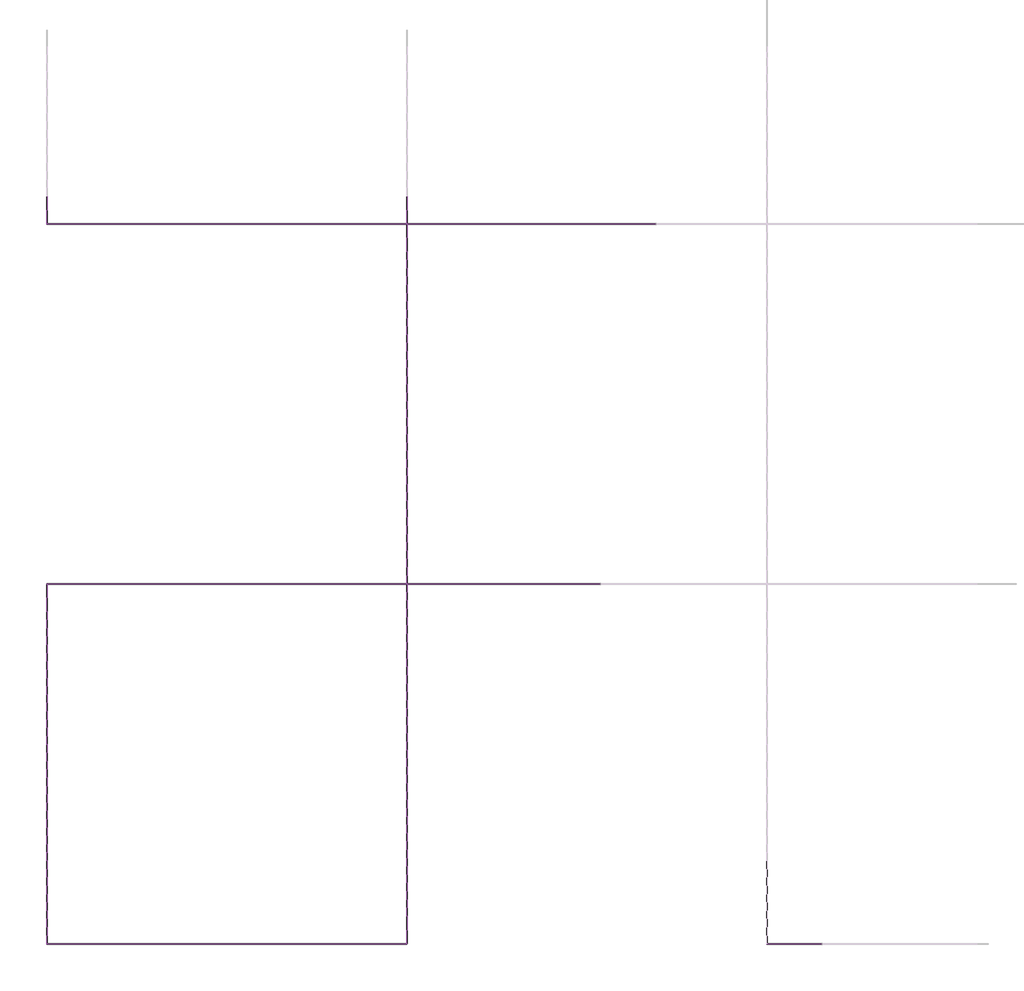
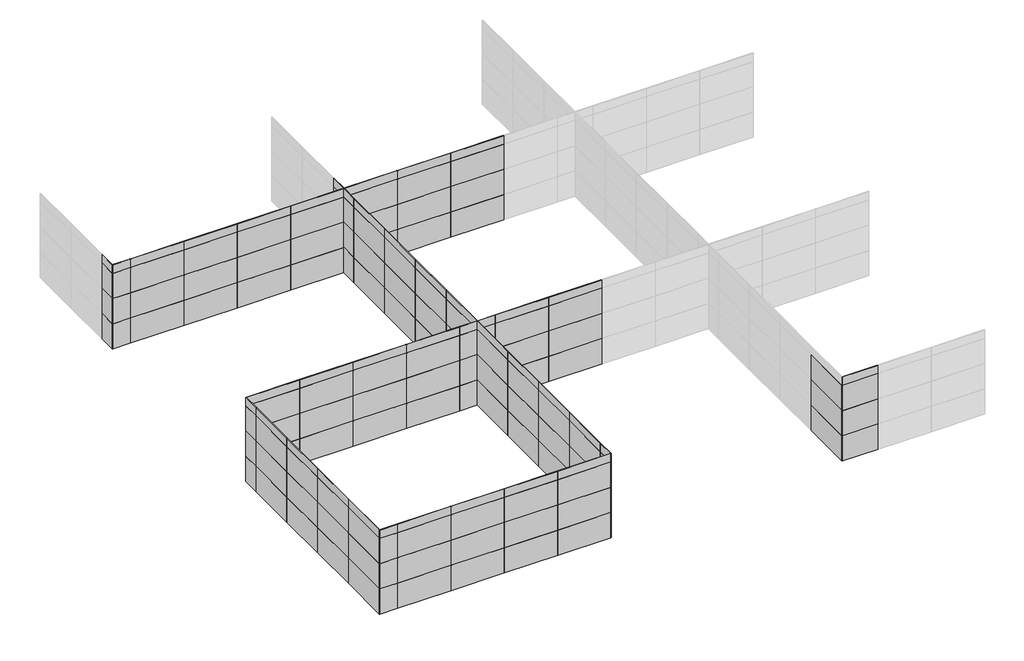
# One storey, part 1 of 4: 159 plates.
"""IFC4 building model written with IfcOpenShell, lengths in millimetres."""

from ifc_helpers import new_model, si_unit, origin, place, context, project, spatial, transform, mapped, element, save
from components import plate_b491c4e8, plate_da1865bf, plate_ce02e459, plate_7b5d22a9, plate_a38b8537, plate_752961ee

model = new_model("IFC4")

# Units and contexts
model_context = context("Model", 3, world=origin())
ifc_project = project(units=[si_unit("LENGTHUNIT", "METRE", prefix="MILLI")], contexts=[model_context])

# Site, building, storey
site = spatial("IfcSite", under=ifc_project)
building = spatial("IfcBuilding", under=site)
storey = spatial("IfcBuildingStorey", under=building, Name="标高 4", Elevation=15000.0)

# Plates
placement = place(None, origin())
plate_shape = plate_b491c4e8(model_context)
element("IfcPlate", 1, ObjectType="系统嵌板 : 玻璃", at=placement, inside=storey, context=model_context, shape_type="MappedRepresentation", body=[
    mapped(plate_shape, transform((-21305.2052414, -25748.6313563, 15000.0), x_axis=(0.0, 1.0, 0.0), y_axis=(-1.0, 0.0, 0.0), z_axis=(0.0, 0.0, 1.0))),
])
element("IfcPlate", 2, ObjectType="系统嵌板 : 玻璃", at=placement, inside=storey, context=model_context, shape_type="MappedRepresentation", body=[
    mapped(plate_shape, transform((-21305.2052414, -22748.6313563, 15000.0), x_axis=(0.0, 1.0, 0.0), y_axis=(-1.0, 0.0, 0.0), z_axis=(0.0, 0.0, 1.0))),
])
element("IfcPlate", 3, ObjectType="系统嵌板 : 玻璃", at=placement, inside=storey, context=model_context, shape_type="MappedRepresentation", body=[
    mapped(plate_shape, transform((-21305.2052414, -19748.6313563, 15000.0), x_axis=(0.0, 1.0, 0.0), y_axis=(-1.0, 0.0, 0.0), z_axis=(0.0, 0.0, 1.0))),
])
element("IfcPlate", 4, ObjectType="系统嵌板 : 玻璃", at=placement, inside=storey, context=model_context, shape_type="MappedRepresentation", body=[
    mapped(plate_shape, transform((-21305.2052414, -16748.6313563, 15000.0), x_axis=(0.0, 1.0, 0.0), y_axis=(-1.0, 0.0, 0.0), z_axis=(0.0, 0.0, 1.0))),
])
element("IfcPlate", 5, ObjectType="系统嵌板 : 玻璃", at=placement, inside=storey, context=model_context, shape_type="MappedRepresentation", body=[
    mapped(plate_shape, transform((-21305.2052414, -25748.6313563, 16500.0), x_axis=(0.0, 1.0, 0.0), y_axis=(-1.0, 0.0, 0.0), z_axis=(0.0, 0.0, 1.0))),
])
element("IfcPlate", 6, ObjectType="系统嵌板 : 玻璃", at=placement, inside=storey, context=model_context, shape_type="MappedRepresentation", body=[
    mapped(plate_shape, transform((-21305.2052414, -22748.6313563, 16500.0), x_axis=(0.0, 1.0, 0.0), y_axis=(-1.0, 0.0, 0.0), z_axis=(0.0, 0.0, 1.0))),
])
element("IfcPlate", 7, ObjectType="系统嵌板 : 玻璃", at=placement, inside=storey, context=model_context, shape_type="MappedRepresentation", body=[
    mapped(plate_shape, transform((-21305.2052414, -19748.6313563, 16500.0), x_axis=(0.0, 1.0, 0.0), y_axis=(-1.0, 0.0, 0.0), z_axis=(0.0, 0.0, 1.0))),
])
element("IfcPlate", 8, ObjectType="系统嵌板 : 玻璃", at=placement, inside=storey, context=model_context, shape_type="MappedRepresentation", body=[
    mapped(plate_shape, transform((-21305.2052414, -16748.6313563, 16500.0), x_axis=(0.0, 1.0, 0.0), y_axis=(-1.0, 0.0, 0.0), z_axis=(0.0, 0.0, 1.0))),
])
element("IfcPlate", 9, ObjectType="系统嵌板 : 玻璃", at=placement, inside=storey, context=model_context, shape_type="MappedRepresentation", body=[
    mapped(plate_shape, transform((-21305.2052414, -25748.6313563, 18000.0), x_axis=(0.0, 1.0, 0.0), y_axis=(-1.0, 0.0, 0.0), z_axis=(0.0, 0.0, 1.0))),
])
element("IfcPlate", 10, ObjectType="系统嵌板 : 玻璃", at=placement, inside=storey, context=model_context, shape_type="MappedRepresentation", body=[
    mapped(plate_shape, transform((-21305.2052414, -22748.6313563, 18000.0), x_axis=(0.0, 1.0, 0.0), y_axis=(-1.0, 0.0, 0.0), z_axis=(0.0, 0.0, 1.0))),
])
element("IfcPlate", 11, ObjectType="系统嵌板 : 玻璃", at=placement, inside=storey, context=model_context, shape_type="MappedRepresentation", body=[
    mapped(plate_shape, transform((-21305.2052414, -19748.6313563, 18000.0), x_axis=(0.0, 1.0, 0.0), y_axis=(-1.0, 0.0, 0.0), z_axis=(0.0, 0.0, 1.0))),
])
element("IfcPlate", 12, ObjectType="系统嵌板 : 玻璃", at=placement, inside=storey, context=model_context, shape_type="MappedRepresentation", body=[
    mapped(plate_shape, transform((-21305.2052414, -16748.6313563, 18000.0), x_axis=(0.0, 1.0, 0.0), y_axis=(-1.0, 0.0, 0.0), z_axis=(0.0, 0.0, 1.0))),
])
element("IfcPlate", 13, ObjectType="系统嵌板 : 玻璃", at=placement, inside=storey, context=model_context, shape_type="MappedRepresentation", body=[
    mapped(plate_shape, transform((-9805.2052414, -27248.6313563, 15000.0), x_axis=(-1.0, 0.0, 0.0), y_axis=(0.0, -1.0, 0.0), z_axis=(0.0, 0.0, 1.0))),
])
element("IfcPlate", 14, ObjectType="系统嵌板 : 玻璃", at=placement, inside=storey, context=model_context, shape_type="MappedRepresentation", body=[
    mapped(plate_shape, transform((-12805.2052414, -27248.6313563, 15000.0), x_axis=(-1.0, 0.0, 0.0), y_axis=(0.0, -1.0, 0.0), z_axis=(0.0, 0.0, 1.0))),
])
element("IfcPlate", 15, ObjectType="系统嵌板 : 玻璃", at=placement, inside=storey, context=model_context, shape_type="MappedRepresentation", body=[
    mapped(plate_shape, transform((-15805.2052414, -27248.6313563, 15000.0), x_axis=(-1.0, 0.0, 0.0), y_axis=(0.0, -1.0, 0.0), z_axis=(0.0, 0.0, 1.0))),
])
element("IfcPlate", 16, ObjectType="系统嵌板 : 玻璃", at=placement, inside=storey, context=model_context, shape_type="MappedRepresentation", body=[
    mapped(plate_shape, transform((-18805.2052414, -27248.6313563, 15000.0), x_axis=(-1.0, 0.0, 0.0), y_axis=(0.0, -1.0, 0.0), z_axis=(0.0, 0.0, 1.0))),
])
element("IfcPlate", 17, ObjectType="系统嵌板 : 玻璃", at=placement, inside=storey, context=model_context, shape_type="MappedRepresentation", body=[
    mapped(plate_shape, transform((-9805.2052414, -27248.6313563, 16500.0), x_axis=(-1.0, 0.0, 0.0), y_axis=(0.0, -1.0, 0.0), z_axis=(0.0, 0.0, 1.0))),
])
element("IfcPlate", 18, ObjectType="系统嵌板 : 玻璃", at=placement, inside=storey, context=model_context, shape_type="MappedRepresentation", body=[
    mapped(plate_shape, transform((-12805.2052414, -27248.6313563, 16500.0), x_axis=(-1.0, 0.0, 0.0), y_axis=(0.0, -1.0, 0.0), z_axis=(0.0, 0.0, 1.0))),
])
element("IfcPlate", 19, ObjectType="系统嵌板 : 玻璃", at=placement, inside=storey, context=model_context, shape_type="MappedRepresentation", body=[
    mapped(plate_shape, transform((-15805.2052414, -27248.6313563, 16500.0), x_axis=(-1.0, 0.0, 0.0), y_axis=(0.0, -1.0, 0.0), z_axis=(0.0, 0.0, 1.0))),
])
element("IfcPlate", 20, ObjectType="系统嵌板 : 玻璃", at=placement, inside=storey, context=model_context, shape_type="MappedRepresentation", body=[
    mapped(plate_shape, transform((-18805.2052414, -27248.6313563, 16500.0), x_axis=(-1.0, 0.0, 0.0), y_axis=(0.0, -1.0, 0.0), z_axis=(0.0, 0.0, 1.0))),
])
element("IfcPlate", 21, ObjectType="系统嵌板 : 玻璃", at=placement, inside=storey, context=model_context, shape_type="MappedRepresentation", body=[
    mapped(plate_shape, transform((-9805.2052414, -27248.6313563, 18000.0), x_axis=(-1.0, 0.0, 0.0), y_axis=(0.0, -1.0, 0.0), z_axis=(0.0, 0.0, 1.0))),
])
element("IfcPlate", 22, ObjectType="系统嵌板 : 玻璃", at=placement, inside=storey, context=model_context, shape_type="MappedRepresentation", body=[
    mapped(plate_shape, transform((-12805.2052414, -27248.6313563, 18000.0), x_axis=(-1.0, 0.0, 0.0), y_axis=(0.0, -1.0, 0.0), z_axis=(0.0, 0.0, 1.0))),
])
element("IfcPlate", 23, ObjectType="系统嵌板 : 玻璃", at=placement, inside=storey, context=model_context, shape_type="MappedRepresentation", body=[
    mapped(plate_shape, transform((-15805.2052414, -27248.6313563, 18000.0), x_axis=(-1.0, 0.0, 0.0), y_axis=(0.0, -1.0, 0.0), z_axis=(0.0, 0.0, 1.0))),
])
element("IfcPlate", 24, ObjectType="系统嵌板 : 玻璃", at=placement, inside=storey, context=model_context, shape_type="MappedRepresentation", body=[
    mapped(plate_shape, transform((-18805.2052414, -27248.6313563, 18000.0), x_axis=(-1.0, 0.0, 0.0), y_axis=(0.0, -1.0, 0.0), z_axis=(0.0, 0.0, 1.0))),
])
element("IfcPlate", 25, ObjectType="系统嵌板 : 玻璃", at=placement, inside=storey, context=model_context, shape_type="MappedRepresentation", body=[
    mapped(plate_shape, transform((-9805.2052414, -1248.6313563, 15000.0), x_axis=(-1.0, 0.0, 0.0), y_axis=(0.0, -1.0, 0.0), z_axis=(0.0, 0.0, 1.0))),
])
element("IfcPlate", 26, ObjectType="系统嵌板 : 玻璃", at=placement, inside=storey, context=model_context, shape_type="MappedRepresentation", body=[
    mapped(plate_shape, transform((-12805.2052414, -1248.6313563, 15000.0), x_axis=(-1.0, 0.0, 0.0), y_axis=(0.0, -1.0, 0.0), z_axis=(0.0, 0.0, 1.0))),
])
element("IfcPlate", 27, ObjectType="系统嵌板 : 玻璃", at=placement, inside=storey, context=model_context, shape_type="MappedRepresentation", body=[
    mapped(plate_shape, transform((-15805.2052414, -1248.6313563, 15000.0), x_axis=(-1.0, 0.0, 0.0), y_axis=(0.0, -1.0, 0.0), z_axis=(0.0, 0.0, 1.0))),
])
element("IfcPlate", 28, ObjectType="系统嵌板 : 玻璃", at=placement, inside=storey, context=model_context, shape_type="MappedRepresentation", body=[
    mapped(plate_shape, transform((-18805.2052414, -1248.6313563, 15000.0), x_axis=(-1.0, 0.0, 0.0), y_axis=(0.0, -1.0, 0.0), z_axis=(0.0, 0.0, 1.0))),
])
element("IfcPlate", 29, ObjectType="系统嵌板 : 玻璃", at=placement, inside=storey, context=model_context, shape_type="MappedRepresentation", body=[
    mapped(plate_shape, transform((-9805.2052414, -1248.6313563, 16500.0), x_axis=(-1.0, 0.0, 0.0), y_axis=(0.0, -1.0, 0.0), z_axis=(0.0, 0.0, 1.0))),
])
element("IfcPlate", 30, ObjectType="系统嵌板 : 玻璃", at=placement, inside=storey, context=model_context, shape_type="MappedRepresentation", body=[
    mapped(plate_shape, transform((-12805.2052414, -1248.6313563, 16500.0), x_axis=(-1.0, 0.0, 0.0), y_axis=(0.0, -1.0, 0.0), z_axis=(0.0, 0.0, 1.0))),
])
element("IfcPlate", 31, ObjectType="系统嵌板 : 玻璃", at=placement, inside=storey, context=model_context, shape_type="MappedRepresentation", body=[
    mapped(plate_shape, transform((-15805.2052414, -1248.6313563, 16500.0), x_axis=(-1.0, 0.0, 0.0), y_axis=(0.0, -1.0, 0.0), z_axis=(0.0, 0.0, 1.0))),
])
element("IfcPlate", 32, ObjectType="系统嵌板 : 玻璃", at=placement, inside=storey, context=model_context, shape_type="MappedRepresentation", body=[
    mapped(plate_shape, transform((-18805.2052414, -1248.6313563, 16500.0), x_axis=(-1.0, 0.0, 0.0), y_axis=(0.0, -1.0, 0.0), z_axis=(0.0, 0.0, 1.0))),
])
element("IfcPlate", 33, ObjectType="系统嵌板 : 玻璃", at=placement, inside=storey, context=model_context, shape_type="MappedRepresentation", body=[
    mapped(plate_shape, transform((-9805.2052414, -1248.6313563, 18000.0), x_axis=(-1.0, 0.0, 0.0), y_axis=(0.0, -1.0, 0.0), z_axis=(0.0, 0.0, 1.0))),
])
element("IfcPlate", 34, ObjectType="系统嵌板 : 玻璃", at=placement, inside=storey, context=model_context, shape_type="MappedRepresentation", body=[
    mapped(plate_shape, transform((-12805.2052414, -1248.6313563, 18000.0), x_axis=(-1.0, 0.0, 0.0), y_axis=(0.0, -1.0, 0.0), z_axis=(0.0, 0.0, 1.0))),
])
element("IfcPlate", 35, ObjectType="系统嵌板 : 玻璃", at=placement, inside=storey, context=model_context, shape_type="MappedRepresentation", body=[
    mapped(plate_shape, transform((-15805.2052414, -1248.6313563, 18000.0), x_axis=(-1.0, 0.0, 0.0), y_axis=(0.0, -1.0, 0.0), z_axis=(0.0, 0.0, 1.0))),
])
element("IfcPlate", 36, ObjectType="系统嵌板 : 玻璃", at=placement, inside=storey, context=model_context, shape_type="MappedRepresentation", body=[
    mapped(plate_shape, transform((-18805.2052414, -1248.6313563, 18000.0), x_axis=(-1.0, 0.0, 0.0), y_axis=(0.0, -1.0, 0.0), z_axis=(0.0, 0.0, 1.0))),
])
element("IfcPlate", 37, ObjectType="系统嵌板 : 玻璃", at=placement, inside=storey, context=model_context, shape_type="MappedRepresentation", body=[
    mapped(plate_shape, transform((-8305.2052414, -12748.6313563, 15000.0), x_axis=(0.0, 1.0, 0.0), y_axis=(-1.0, 0.0, 0.0), z_axis=(0.0, 0.0, 1.0))),
])
element("IfcPlate", 38, ObjectType="系统嵌板 : 玻璃", at=placement, inside=storey, context=model_context, shape_type="MappedRepresentation", body=[
    mapped(plate_shape, transform((-8305.2052414, -9748.6313563, 15000.0), x_axis=(0.0, 1.0, 0.0), y_axis=(-1.0, 0.0, 0.0), z_axis=(0.0, 0.0, 1.0))),
])
element("IfcPlate", 39, ObjectType="系统嵌板 : 玻璃", at=placement, inside=storey, context=model_context, shape_type="MappedRepresentation", body=[
    mapped(plate_shape, transform((-8305.2052414, -6748.6313563, 15000.0), x_axis=(0.0, 1.0, 0.0), y_axis=(-1.0, 0.0, 0.0), z_axis=(0.0, 0.0, 1.0))),
])
element("IfcPlate", 40, ObjectType="系统嵌板 : 玻璃", at=placement, inside=storey, context=model_context, shape_type="MappedRepresentation", body=[
    mapped(plate_shape, transform((-8305.2052414, -3748.6313563, 15000.0), x_axis=(0.0, 1.0, 0.0), y_axis=(-1.0, 0.0, 0.0), z_axis=(0.0, 0.0, 1.0))),
])
element("IfcPlate", 41, ObjectType="系统嵌板 : 玻璃", at=placement, inside=storey, context=model_context, shape_type="MappedRepresentation", body=[
    mapped(plate_shape, transform((-8305.2052414, -12748.6313563, 16500.0), x_axis=(0.0, 1.0, 0.0), y_axis=(-1.0, 0.0, 0.0), z_axis=(0.0, 0.0, 1.0))),
])
element("IfcPlate", 42, ObjectType="系统嵌板 : 玻璃", at=placement, inside=storey, context=model_context, shape_type="MappedRepresentation", body=[
    mapped(plate_shape, transform((-8305.2052414, -9748.6313563, 16500.0), x_axis=(0.0, 1.0, 0.0), y_axis=(-1.0, 0.0, 0.0), z_axis=(0.0, 0.0, 1.0))),
])
element("IfcPlate", 43, ObjectType="系统嵌板 : 玻璃", at=placement, inside=storey, context=model_context, shape_type="MappedRepresentation", body=[
    mapped(plate_shape, transform((-8305.2052414, -6748.6313563, 16500.0), x_axis=(0.0, 1.0, 0.0), y_axis=(-1.0, 0.0, 0.0), z_axis=(0.0, 0.0, 1.0))),
])
element("IfcPlate", 44, ObjectType="系统嵌板 : 玻璃", at=placement, inside=storey, context=model_context, shape_type="MappedRepresentation", body=[
    mapped(plate_shape, transform((-8305.2052414, -3748.6313563, 16500.0), x_axis=(0.0, 1.0, 0.0), y_axis=(-1.0, 0.0, 0.0), z_axis=(0.0, 0.0, 1.0))),
])
element("IfcPlate", 45, ObjectType="系统嵌板 : 玻璃", at=placement, inside=storey, context=model_context, shape_type="MappedRepresentation", body=[
    mapped(plate_shape, transform((-8305.2052414, -12748.6313563, 18000.0), x_axis=(0.0, 1.0, 0.0), y_axis=(-1.0, 0.0, 0.0), z_axis=(0.0, 0.0, 1.0))),
])
element("IfcPlate", 46, ObjectType="系统嵌板 : 玻璃", at=placement, inside=storey, context=model_context, shape_type="MappedRepresentation", body=[
    mapped(plate_shape, transform((-8305.2052414, -9748.6313563, 18000.0), x_axis=(0.0, 1.0, 0.0), y_axis=(-1.0, 0.0, 0.0), z_axis=(0.0, 0.0, 1.0))),
])
element("IfcPlate", 47, ObjectType="系统嵌板 : 玻璃", at=placement, inside=storey, context=model_context, shape_type="MappedRepresentation", body=[
    mapped(plate_shape, transform((-8305.2052414, -6748.6313563, 18000.0), x_axis=(0.0, 1.0, 0.0), y_axis=(-1.0, 0.0, 0.0), z_axis=(0.0, 0.0, 1.0))),
])
element("IfcPlate", 48, ObjectType="系统嵌板 : 玻璃", at=placement, inside=storey, context=model_context, shape_type="MappedRepresentation", body=[
    mapped(plate_shape, transform((-8305.2052414, -3748.6313563, 18000.0), x_axis=(0.0, 1.0, 0.0), y_axis=(-1.0, 0.0, 0.0), z_axis=(0.0, 0.0, 1.0))),
])
element("IfcPlate", 49, ObjectType="系统嵌板 : 玻璃", at=placement, inside=storey, context=model_context, shape_type="MappedRepresentation", body=[
    mapped(plate_shape, transform((-19805.2052414, -14248.6313563, 15000.0), x_axis=(1.0, 0.0, 0.0), y_axis=(0.0, 1.0, 0.0), z_axis=(0.0, 0.0, 1.0))),
])
element("IfcPlate", 50, ObjectType="系统嵌板 : 玻璃", at=placement, inside=storey, context=model_context, shape_type="MappedRepresentation", body=[
    mapped(plate_shape, transform((-16805.2052414, -14248.6313563, 15000.0), x_axis=(1.0, 0.0, 0.0), y_axis=(0.0, 1.0, 0.0), z_axis=(0.0, 0.0, 1.0))),
])
element("IfcPlate", 51, ObjectType="系统嵌板 : 玻璃", at=placement, inside=storey, context=model_context, shape_type="MappedRepresentation", body=[
    mapped(plate_shape, transform((-13805.2052414, -14248.6313563, 15000.0), x_axis=(1.0, 0.0, 0.0), y_axis=(0.0, 1.0, 0.0), z_axis=(0.0, 0.0, 1.0))),
])
element("IfcPlate", 52, ObjectType="系统嵌板 : 玻璃", at=placement, inside=storey, context=model_context, shape_type="MappedRepresentation", body=[
    mapped(plate_shape, transform((-10805.2052414, -14248.6313563, 15000.0), x_axis=(1.0, 0.0, 0.0), y_axis=(0.0, 1.0, 0.0), z_axis=(0.0, 0.0, 1.0))),
])
element("IfcPlate", 53, ObjectType="系统嵌板 : 玻璃", at=placement, inside=storey, context=model_context, shape_type="MappedRepresentation", body=[
    mapped(plate_shape, transform((-19805.2052414, -14248.6313563, 16500.0), x_axis=(1.0, 0.0, 0.0), y_axis=(0.0, 1.0, 0.0), z_axis=(0.0, 0.0, 1.0))),
])
element("IfcPlate", 54, ObjectType="系统嵌板 : 玻璃", at=placement, inside=storey, context=model_context, shape_type="MappedRepresentation", body=[
    mapped(plate_shape, transform((-16805.2052414, -14248.6313563, 16500.0), x_axis=(1.0, 0.0, 0.0), y_axis=(0.0, 1.0, 0.0), z_axis=(0.0, 0.0, 1.0))),
])
element("IfcPlate", 55, ObjectType="系统嵌板 : 玻璃", at=placement, inside=storey, context=model_context, shape_type="MappedRepresentation", body=[
    mapped(plate_shape, transform((-13805.2052414, -14248.6313563, 16500.0), x_axis=(1.0, 0.0, 0.0), y_axis=(0.0, 1.0, 0.0), z_axis=(0.0, 0.0, 1.0))),
])
element("IfcPlate", 56, ObjectType="系统嵌板 : 玻璃", at=placement, inside=storey, context=model_context, shape_type="MappedRepresentation", body=[
    mapped(plate_shape, transform((-10805.2052414, -14248.6313563, 16500.0), x_axis=(1.0, 0.0, 0.0), y_axis=(0.0, 1.0, 0.0), z_axis=(0.0, 0.0, 1.0))),
])
element("IfcPlate", 57, ObjectType="系统嵌板 : 玻璃", at=placement, inside=storey, context=model_context, shape_type="MappedRepresentation", body=[
    mapped(plate_shape, transform((-19805.2052414, -14248.6313563, 18000.0), x_axis=(1.0, 0.0, 0.0), y_axis=(0.0, 1.0, 0.0), z_axis=(0.0, 0.0, 1.0))),
])
element("IfcPlate", 58, ObjectType="系统嵌板 : 玻璃", at=placement, inside=storey, context=model_context, shape_type="MappedRepresentation", body=[
    mapped(plate_shape, transform((-16805.2052414, -14248.6313563, 18000.0), x_axis=(1.0, 0.0, 0.0), y_axis=(0.0, 1.0, 0.0), z_axis=(0.0, 0.0, 1.0))),
])
element("IfcPlate", 59, ObjectType="系统嵌板 : 玻璃", at=placement, inside=storey, context=model_context, shape_type="MappedRepresentation", body=[
    mapped(plate_shape, transform((-13805.2052414, -14248.6313563, 18000.0), x_axis=(1.0, 0.0, 0.0), y_axis=(0.0, 1.0, 0.0), z_axis=(0.0, 0.0, 1.0))),
])
element("IfcPlate", 60, ObjectType="系统嵌板 : 玻璃", at=placement, inside=storey, context=model_context, shape_type="MappedRepresentation", body=[
    mapped(plate_shape, transform((-10805.2052414, -14248.6313563, 18000.0), x_axis=(1.0, 0.0, 0.0), y_axis=(0.0, 1.0, 0.0), z_axis=(0.0, 0.0, 1.0))),
])
element("IfcPlate", 61, ObjectType="系统嵌板 : 玻璃", at=placement, inside=storey, context=model_context, shape_type="MappedRepresentation", body=[
    mapped(plate_shape, transform((4694.7947586, -25748.6313563, 15000.0), x_axis=(0.0, 1.0, 0.0), y_axis=(-1.0, 0.0, 0.0), z_axis=(0.0, 0.0, 1.0))),
])
element("IfcPlate", 62, ObjectType="系统嵌板 : 玻璃", at=placement, inside=storey, context=model_context, shape_type="MappedRepresentation", body=[
    mapped(plate_shape, transform((4694.7947586, -25748.6313563, 16500.0), x_axis=(0.0, 1.0, 0.0), y_axis=(-1.0, 0.0, 0.0), z_axis=(0.0, 0.0, 1.0))),
])
element("IfcPlate", 63, ObjectType="系统嵌板 : 玻璃", at=placement, inside=storey, context=model_context, shape_type="MappedRepresentation", body=[
    mapped(plate_shape, transform((4694.7947586, -25748.6313563, 18000.0), x_axis=(0.0, 1.0, 0.0), y_axis=(-1.0, 0.0, 0.0), z_axis=(0.0, 0.0, 1.0))),
])
element("IfcPlate", 64, ObjectType="系统嵌板 : 玻璃", at=placement, inside=storey, context=model_context, shape_type="MappedRepresentation", body=[
    mapped(plate_shape, transform((-2805.2052414, -14248.6313563, 15000.0), x_axis=(-1.0, 0.0, 0.0), y_axis=(0.0, -1.0, 0.0), z_axis=(0.0, 0.0, 1.0))),
])
element("IfcPlate", 65, ObjectType="系统嵌板 : 玻璃", at=placement, inside=storey, context=model_context, shape_type="MappedRepresentation", body=[
    mapped(plate_shape, transform((-5805.2052414, -14248.6313563, 15000.0), x_axis=(-1.0, 0.0, 0.0), y_axis=(0.0, -1.0, 0.0), z_axis=(0.0, 0.0, 1.0))),
])
element("IfcPlate", 66, ObjectType="系统嵌板 : 玻璃", at=placement, inside=storey, context=model_context, shape_type="MappedRepresentation", body=[
    mapped(plate_shape, transform((-2805.2052414, -14248.6313563, 16500.0), x_axis=(-1.0, 0.0, 0.0), y_axis=(0.0, -1.0, 0.0), z_axis=(0.0, 0.0, 1.0))),
])
element("IfcPlate", 67, ObjectType="系统嵌板 : 玻璃", at=placement, inside=storey, context=model_context, shape_type="MappedRepresentation", body=[
    mapped(plate_shape, transform((-5805.2052414, -14248.6313563, 16500.0), x_axis=(-1.0, 0.0, 0.0), y_axis=(0.0, -1.0, 0.0), z_axis=(0.0, 0.0, 1.0))),
])
element("IfcPlate", 68, ObjectType="系统嵌板 : 玻璃", at=placement, inside=storey, context=model_context, shape_type="MappedRepresentation", body=[
    mapped(plate_shape, transform((-2805.2052414, -14248.6313563, 18000.0), x_axis=(-1.0, 0.0, 0.0), y_axis=(0.0, -1.0, 0.0), z_axis=(0.0, 0.0, 1.0))),
])
element("IfcPlate", 69, ObjectType="系统嵌板 : 玻璃", at=placement, inside=storey, context=model_context, shape_type="MappedRepresentation", body=[
    mapped(plate_shape, transform((-5805.2052414, -14248.6313563, 18000.0), x_axis=(-1.0, 0.0, 0.0), y_axis=(0.0, -1.0, 0.0), z_axis=(0.0, 0.0, 1.0))),
])
element("IfcPlate", 70, ObjectType="系统嵌板 : 玻璃", at=placement, inside=storey, context=model_context, shape_type="MappedRepresentation", body=[
    mapped(plate_shape, transform((-8305.2052414, -15748.6313563, 15000.0), x_axis=(0.0, -1.0, 0.0), y_axis=(1.0, 0.0, 0.0), z_axis=(0.0, 0.0, 1.0))),
])
element("IfcPlate", 71, ObjectType="系统嵌板 : 玻璃", at=placement, inside=storey, context=model_context, shape_type="MappedRepresentation", body=[
    mapped(plate_shape, transform((-8305.2052414, -18748.6313563, 15000.0), x_axis=(0.0, -1.0, 0.0), y_axis=(1.0, 0.0, 0.0), z_axis=(0.0, 0.0, 1.0))),
])
element("IfcPlate", 72, ObjectType="系统嵌板 : 玻璃", at=placement, inside=storey, context=model_context, shape_type="MappedRepresentation", body=[
    mapped(plate_shape, transform((-8305.2052414, -21748.6313563, 15000.0), x_axis=(0.0, -1.0, 0.0), y_axis=(1.0, 0.0, 0.0), z_axis=(0.0, 0.0, 1.0))),
])
element("IfcPlate", 73, ObjectType="系统嵌板 : 玻璃", at=placement, inside=storey, context=model_context, shape_type="MappedRepresentation", body=[
    mapped(plate_shape, transform((-8305.2052414, -24748.6313563, 15000.0), x_axis=(0.0, -1.0, 0.0), y_axis=(1.0, 0.0, 0.0), z_axis=(0.0, 0.0, 1.0))),
])
element("IfcPlate", 74, ObjectType="系统嵌板 : 玻璃", at=placement, inside=storey, context=model_context, shape_type="MappedRepresentation", body=[
    mapped(plate_shape, transform((-8305.2052414, -15748.6313563, 16500.0), x_axis=(0.0, -1.0, 0.0), y_axis=(1.0, 0.0, 0.0), z_axis=(0.0, 0.0, 1.0))),
])
element("IfcPlate", 75, ObjectType="系统嵌板 : 玻璃", at=placement, inside=storey, context=model_context, shape_type="MappedRepresentation", body=[
    mapped(plate_shape, transform((-8305.2052414, -18748.6313563, 16500.0), x_axis=(0.0, -1.0, 0.0), y_axis=(1.0, 0.0, 0.0), z_axis=(0.0, 0.0, 1.0))),
])
element("IfcPlate", 76, ObjectType="系统嵌板 : 玻璃", at=placement, inside=storey, context=model_context, shape_type="MappedRepresentation", body=[
    mapped(plate_shape, transform((-8305.2052414, -21748.6313563, 16500.0), x_axis=(0.0, -1.0, 0.0), y_axis=(1.0, 0.0, 0.0), z_axis=(0.0, 0.0, 1.0))),
])
element("IfcPlate", 77, ObjectType="系统嵌板 : 玻璃", at=placement, inside=storey, context=model_context, shape_type="MappedRepresentation", body=[
    mapped(plate_shape, transform((-8305.2052414, -24748.6313563, 16500.0), x_axis=(0.0, -1.0, 0.0), y_axis=(1.0, 0.0, 0.0), z_axis=(0.0, 0.0, 1.0))),
])
element("IfcPlate", 78, ObjectType="系统嵌板 : 玻璃", at=placement, inside=storey, context=model_context, shape_type="MappedRepresentation", body=[
    mapped(plate_shape, transform((-8305.2052414, -15748.6313563, 18000.0), x_axis=(0.0, -1.0, 0.0), y_axis=(1.0, 0.0, 0.0), z_axis=(0.0, 0.0, 1.0))),
])
element("IfcPlate", 79, ObjectType="系统嵌板 : 玻璃", at=placement, inside=storey, context=model_context, shape_type="MappedRepresentation", body=[
    mapped(plate_shape, transform((-8305.2052414, -18748.6313563, 18000.0), x_axis=(0.0, -1.0, 0.0), y_axis=(1.0, 0.0, 0.0), z_axis=(0.0, 0.0, 1.0))),
])
element("IfcPlate", 80, ObjectType="系统嵌板 : 玻璃", at=placement, inside=storey, context=model_context, shape_type="MappedRepresentation", body=[
    mapped(plate_shape, transform((-8305.2052414, -21748.6313563, 18000.0), x_axis=(0.0, -1.0, 0.0), y_axis=(1.0, 0.0, 0.0), z_axis=(0.0, 0.0, 1.0))),
])
element("IfcPlate", 81, ObjectType="系统嵌板 : 玻璃", at=placement, inside=storey, context=model_context, shape_type="MappedRepresentation", body=[
    mapped(plate_shape, transform((-8305.2052414, -24748.6313563, 18000.0), x_axis=(0.0, -1.0, 0.0), y_axis=(1.0, 0.0, 0.0), z_axis=(0.0, 0.0, 1.0))),
])
element("IfcPlate", 82, ObjectType="系统嵌板 : 玻璃", at=placement, inside=storey, context=model_context, shape_type="MappedRepresentation", body=[
    mapped(plate_shape, transform((-6805.2052414, -1248.6313563, 15000.0), x_axis=(1.0, 0.0, 0.0), y_axis=(0.0, 1.0, 0.0), z_axis=(0.0, 0.0, 1.0))),
])
element("IfcPlate", 83, ObjectType="系统嵌板 : 玻璃", at=placement, inside=storey, context=model_context, shape_type="MappedRepresentation", body=[
    mapped(plate_shape, transform((-3805.2052414, -1248.6313563, 15000.0), x_axis=(1.0, 0.0, 0.0), y_axis=(0.0, 1.0, 0.0), z_axis=(0.0, 0.0, 1.0))),
])
element("IfcPlate", 84, ObjectType="系统嵌板 : 玻璃", at=placement, inside=storey, context=model_context, shape_type="MappedRepresentation", body=[
    mapped(plate_shape, transform((-805.2052414, -1248.6313563, 15000.0), x_axis=(1.0, 0.0, 0.0), y_axis=(0.0, 1.0, 0.0), z_axis=(0.0, 0.0, 1.0))),
])
element("IfcPlate", 85, ObjectType="系统嵌板 : 玻璃", at=placement, inside=storey, context=model_context, shape_type="MappedRepresentation", body=[
    mapped(plate_shape, transform((-6805.2052414, -1248.6313563, 16500.0), x_axis=(1.0, 0.0, 0.0), y_axis=(0.0, 1.0, 0.0), z_axis=(0.0, 0.0, 1.0))),
])
element("IfcPlate", 86, ObjectType="系统嵌板 : 玻璃", at=placement, inside=storey, context=model_context, shape_type="MappedRepresentation", body=[
    mapped(plate_shape, transform((-3805.2052414, -1248.6313563, 16500.0), x_axis=(1.0, 0.0, 0.0), y_axis=(0.0, 1.0, 0.0), z_axis=(0.0, 0.0, 1.0))),
])
element("IfcPlate", 87, ObjectType="系统嵌板 : 玻璃", at=placement, inside=storey, context=model_context, shape_type="MappedRepresentation", body=[
    mapped(plate_shape, transform((-805.2052414, -1248.6313563, 16500.0), x_axis=(1.0, 0.0, 0.0), y_axis=(0.0, 1.0, 0.0), z_axis=(0.0, 0.0, 1.0))),
])
element("IfcPlate", 88, ObjectType="系统嵌板 : 玻璃", at=placement, inside=storey, context=model_context, shape_type="MappedRepresentation", body=[
    mapped(plate_shape, transform((-6805.2052414, -1248.6313563, 18000.0), x_axis=(1.0, 0.0, 0.0), y_axis=(0.0, 1.0, 0.0), z_axis=(0.0, 0.0, 1.0))),
])
element("IfcPlate", 89, ObjectType="系统嵌板 : 玻璃", at=placement, inside=storey, context=model_context, shape_type="MappedRepresentation", body=[
    mapped(plate_shape, transform((-3805.2052414, -1248.6313563, 18000.0), x_axis=(1.0, 0.0, 0.0), y_axis=(0.0, 1.0, 0.0), z_axis=(0.0, 0.0, 1.0))),
])
element("IfcPlate", 90, ObjectType="系统嵌板 : 玻璃", at=placement, inside=storey, context=model_context, shape_type="MappedRepresentation", body=[
    mapped(plate_shape, transform((-805.2052414, -1248.6313563, 18000.0), x_axis=(1.0, 0.0, 0.0), y_axis=(0.0, 1.0, 0.0), z_axis=(0.0, 0.0, 1.0))),
])
plate_2_shape = plate_da1865bf(model_context)
element("IfcPlate", 91, ObjectType="系统嵌板 : 玻璃", at=placement, inside=storey, context=model_context, shape_type="MappedRepresentation", body=[
    mapped(plate_2_shape, transform((-21305.2052414, -14748.6313563, 15000.0), x_axis=(0.0, 1.0, 0.0), y_axis=(-1.0, 0.0, 0.0), z_axis=(0.0, 0.0, 1.0))),
])
element("IfcPlate", 92, ObjectType="系统嵌板 : 玻璃", at=placement, inside=storey, context=model_context, shape_type="MappedRepresentation", body=[
    mapped(plate_2_shape, transform((-21305.2052414, -748.6313563, 15000.0), x_axis=(0.0, 1.0, 0.0), y_axis=(-1.0, 0.0, 0.0), z_axis=(0.0, 0.0, 1.0))),
])
element("IfcPlate", 93, ObjectType="系统嵌板 : 玻璃", at=placement, inside=storey, context=model_context, shape_type="MappedRepresentation", body=[
    mapped(plate_2_shape, transform((-21305.2052414, -14748.6313563, 16500.0), x_axis=(0.0, 1.0, 0.0), y_axis=(-1.0, 0.0, 0.0), z_axis=(0.0, 0.0, 1.0))),
])
element("IfcPlate", 94, ObjectType="系统嵌板 : 玻璃", at=placement, inside=storey, context=model_context, shape_type="MappedRepresentation", body=[
    mapped(plate_2_shape, transform((-21305.2052414, -748.6313563, 16500.0), x_axis=(0.0, 1.0, 0.0), y_axis=(-1.0, 0.0, 0.0), z_axis=(0.0, 0.0, 1.0))),
])
element("IfcPlate", 95, ObjectType="系统嵌板 : 玻璃", at=placement, inside=storey, context=model_context, shape_type="MappedRepresentation", body=[
    mapped(plate_2_shape, transform((-21305.2052414, -14748.6313563, 18000.0), x_axis=(0.0, 1.0, 0.0), y_axis=(-1.0, 0.0, 0.0), z_axis=(0.0, 0.0, 1.0))),
])
element("IfcPlate", 96, ObjectType="系统嵌板 : 玻璃", at=placement, inside=storey, context=model_context, shape_type="MappedRepresentation", body=[
    mapped(plate_2_shape, transform((-21305.2052414, -748.6313563, 18000.0), x_axis=(0.0, 1.0, 0.0), y_axis=(-1.0, 0.0, 0.0), z_axis=(0.0, 0.0, 1.0))),
])
element("IfcPlate", 97, ObjectType="系统嵌板 : 玻璃", at=placement, inside=storey, context=model_context, shape_type="MappedRepresentation", body=[
    mapped(plate_2_shape, transform((-20805.2052414, -27248.6313563, 15000.0), x_axis=(-1.0, 0.0, 0.0), y_axis=(0.0, -1.0, 0.0), z_axis=(0.0, 0.0, 1.0))),
])
element("IfcPlate", 98, ObjectType="系统嵌板 : 玻璃", at=placement, inside=storey, context=model_context, shape_type="MappedRepresentation", body=[
    mapped(plate_2_shape, transform((-20805.2052414, -27248.6313563, 16500.0), x_axis=(-1.0, 0.0, 0.0), y_axis=(0.0, -1.0, 0.0), z_axis=(0.0, 0.0, 1.0))),
])
element("IfcPlate", 99, ObjectType="系统嵌板 : 玻璃", at=placement, inside=storey, context=model_context, shape_type="MappedRepresentation", body=[
    mapped(plate_2_shape, transform((-20805.2052414, -27248.6313563, 18000.0), x_axis=(-1.0, 0.0, 0.0), y_axis=(0.0, -1.0, 0.0), z_axis=(0.0, 0.0, 1.0))),
])
element("IfcPlate", 100, ObjectType="系统嵌板 : 玻璃", at=placement, inside=storey, context=model_context, shape_type="MappedRepresentation", body=[
    mapped(plate_2_shape, transform((-20805.2052414, -1248.6313563, 15000.0), x_axis=(-1.0, 0.0, 0.0), y_axis=(0.0, -1.0, 0.0), z_axis=(0.0, 0.0, 1.0))),
])
element("IfcPlate", 101, ObjectType="系统嵌板 : 玻璃", at=placement, inside=storey, context=model_context, shape_type="MappedRepresentation", body=[
    mapped(plate_2_shape, transform((-20805.2052414, -1248.6313563, 16500.0), x_axis=(-1.0, 0.0, 0.0), y_axis=(0.0, -1.0, 0.0), z_axis=(0.0, 0.0, 1.0))),
])
element("IfcPlate", 102, ObjectType="系统嵌板 : 玻璃", at=placement, inside=storey, context=model_context, shape_type="MappedRepresentation", body=[
    mapped(plate_2_shape, transform((-20805.2052414, -1248.6313563, 18000.0), x_axis=(-1.0, 0.0, 0.0), y_axis=(0.0, -1.0, 0.0), z_axis=(0.0, 0.0, 1.0))),
])
element("IfcPlate", 103, ObjectType="系统嵌板 : 玻璃", at=placement, inside=storey, context=model_context, shape_type="MappedRepresentation", body=[
    mapped(plate_2_shape, transform((-8305.2052414, -1748.6313563, 15000.0), x_axis=(0.0, 1.0, 0.0), y_axis=(-1.0, 0.0, 0.0), z_axis=(0.0, 0.0, 1.0))),
])
element("IfcPlate", 104, ObjectType="系统嵌板 : 玻璃", at=placement, inside=storey, context=model_context, shape_type="MappedRepresentation", body=[
    mapped(plate_2_shape, transform((-8305.2052414, -1748.6313563, 16500.0), x_axis=(0.0, 1.0, 0.0), y_axis=(-1.0, 0.0, 0.0), z_axis=(0.0, 0.0, 1.0))),
])
element("IfcPlate", 105, ObjectType="系统嵌板 : 玻璃", at=placement, inside=storey, context=model_context, shape_type="MappedRepresentation", body=[
    mapped(plate_2_shape, transform((-8305.2052414, -1748.6313563, 18000.0), x_axis=(0.0, 1.0, 0.0), y_axis=(-1.0, 0.0, 0.0), z_axis=(0.0, 0.0, 1.0))),
])
element("IfcPlate", 106, ObjectType="系统嵌板 : 玻璃", at=placement, inside=storey, context=model_context, shape_type="MappedRepresentation", body=[
    mapped(plate_2_shape, transform((-8805.2052414, -14248.6313563, 15000.0), x_axis=(1.0, 0.0, 0.0), y_axis=(0.0, 1.0, 0.0), z_axis=(0.0, 0.0, 1.0))),
])
element("IfcPlate", 107, ObjectType="系统嵌板 : 玻璃", at=placement, inside=storey, context=model_context, shape_type="MappedRepresentation", body=[
    mapped(plate_2_shape, transform((-8805.2052414, -14248.6313563, 16500.0), x_axis=(1.0, 0.0, 0.0), y_axis=(0.0, 1.0, 0.0), z_axis=(0.0, 0.0, 1.0))),
])
element("IfcPlate", 108, ObjectType="系统嵌板 : 玻璃", at=placement, inside=storey, context=model_context, shape_type="MappedRepresentation", body=[
    mapped(plate_2_shape, transform((-8805.2052414, -14248.6313563, 18000.0), x_axis=(1.0, 0.0, 0.0), y_axis=(0.0, 1.0, 0.0), z_axis=(0.0, 0.0, 1.0))),
])
element("IfcPlate", 109, ObjectType="系统嵌板 : 玻璃", at=placement, inside=storey, context=model_context, shape_type="MappedRepresentation", body=[
    mapped(plate_2_shape, transform((-7805.2052414, -14248.6313563, 15000.0), x_axis=(-1.0, 0.0, 0.0), y_axis=(0.0, -1.0, 0.0), z_axis=(0.0, 0.0, 1.0))),
])
element("IfcPlate", 110, ObjectType="系统嵌板 : 玻璃", at=placement, inside=storey, context=model_context, shape_type="MappedRepresentation", body=[
    mapped(plate_2_shape, transform((-7805.2052414, -14248.6313563, 16500.0), x_axis=(-1.0, 0.0, 0.0), y_axis=(0.0, -1.0, 0.0), z_axis=(0.0, 0.0, 1.0))),
])
element("IfcPlate", 111, ObjectType="系统嵌板 : 玻璃", at=placement, inside=storey, context=model_context, shape_type="MappedRepresentation", body=[
    mapped(plate_2_shape, transform((-7805.2052414, -14248.6313563, 18000.0), x_axis=(-1.0, 0.0, 0.0), y_axis=(0.0, -1.0, 0.0), z_axis=(0.0, 0.0, 1.0))),
])
element("IfcPlate", 112, ObjectType="系统嵌板 : 玻璃", at=placement, inside=storey, context=model_context, shape_type="MappedRepresentation", body=[
    mapped(plate_2_shape, transform((-8305.2052414, -26748.6313563, 15000.0), x_axis=(0.0, -1.0, 0.0), y_axis=(1.0, 0.0, 0.0), z_axis=(0.0, 0.0, 1.0))),
])
element("IfcPlate", 113, ObjectType="系统嵌板 : 玻璃", at=placement, inside=storey, context=model_context, shape_type="MappedRepresentation", body=[
    mapped(plate_2_shape, transform((-8305.2052414, -26748.6313563, 16500.0), x_axis=(0.0, -1.0, 0.0), y_axis=(1.0, 0.0, 0.0), z_axis=(0.0, 0.0, 1.0))),
])
element("IfcPlate", 114, ObjectType="系统嵌板 : 玻璃", at=placement, inside=storey, context=model_context, shape_type="MappedRepresentation", body=[
    mapped(plate_2_shape, transform((-8305.2052414, -26748.6313563, 18000.0), x_axis=(0.0, -1.0, 0.0), y_axis=(1.0, 0.0, 0.0), z_axis=(0.0, 0.0, 1.0))),
])
element("IfcPlate", 115, ObjectType="系统嵌板 : 玻璃", at=placement, inside=storey, context=model_context, shape_type="MappedRepresentation", body=[
    mapped(plate_2_shape, transform((-8305.2052414, -748.6313563, 15000.0), x_axis=(0.0, -1.0, 0.0), y_axis=(1.0, 0.0, 0.0), z_axis=(0.0, 0.0, 1.0))),
])
element("IfcPlate", 116, ObjectType="系统嵌板 : 玻璃", at=placement, inside=storey, context=model_context, shape_type="MappedRepresentation", body=[
    mapped(plate_2_shape, transform((-8305.2052414, -748.6313563, 16500.0), x_axis=(0.0, -1.0, 0.0), y_axis=(1.0, 0.0, 0.0), z_axis=(0.0, 0.0, 1.0))),
])
element("IfcPlate", 117, ObjectType="系统嵌板 : 玻璃", at=placement, inside=storey, context=model_context, shape_type="MappedRepresentation", body=[
    mapped(plate_2_shape, transform((-8305.2052414, -748.6313563, 18000.0), x_axis=(0.0, -1.0, 0.0), y_axis=(1.0, 0.0, 0.0), z_axis=(0.0, 0.0, 1.0))),
])
plate_3_shape = plate_ce02e459(model_context)
element("IfcPlate", 118, ObjectType="系统嵌板 : 玻璃", at=placement, inside=storey, context=model_context, shape_type="MappedRepresentation", body=[
    mapped(plate_3_shape, transform((-21305.2052414, -25748.6313563, 19500.0), x_axis=(0.0, 1.0, 0.0), y_axis=(-1.0, 0.0, 0.0), z_axis=(0.0, 0.0, 1.0))),
])
element("IfcPlate", 119, ObjectType="系统嵌板 : 玻璃", at=placement, inside=storey, context=model_context, shape_type="MappedRepresentation", body=[
    mapped(plate_3_shape, transform((-21305.2052414, -22748.6313563, 19500.0), x_axis=(0.0, 1.0, 0.0), y_axis=(-1.0, 0.0, 0.0), z_axis=(0.0, 0.0, 1.0))),
])
element("IfcPlate", 120, ObjectType="系统嵌板 : 玻璃", at=placement, inside=storey, context=model_context, shape_type="MappedRepresentation", body=[
    mapped(plate_3_shape, transform((-21305.2052414, -19748.6313563, 19500.0), x_axis=(0.0, 1.0, 0.0), y_axis=(-1.0, 0.0, 0.0), z_axis=(0.0, 0.0, 1.0))),
])
element("IfcPlate", 121, ObjectType="系统嵌板 : 玻璃", at=placement, inside=storey, context=model_context, shape_type="MappedRepresentation", body=[
    mapped(plate_3_shape, transform((-21305.2052414, -16748.6313563, 19500.0), x_axis=(0.0, 1.0, 0.0), y_axis=(-1.0, 0.0, 0.0), z_axis=(0.0, 0.0, 1.0))),
])
element("IfcPlate", 122, ObjectType="系统嵌板 : 玻璃", at=placement, inside=storey, context=model_context, shape_type="MappedRepresentation", body=[
    mapped(plate_3_shape, transform((-9805.2052414, -27248.6313563, 19500.0), x_axis=(-1.0, 0.0, 0.0), y_axis=(0.0, -1.0, 0.0), z_axis=(0.0, 0.0, 1.0))),
])
element("IfcPlate", 123, ObjectType="系统嵌板 : 玻璃", at=placement, inside=storey, context=model_context, shape_type="MappedRepresentation", body=[
    mapped(plate_3_shape, transform((-12805.2052414, -27248.6313563, 19500.0), x_axis=(-1.0, 0.0, 0.0), y_axis=(0.0, -1.0, 0.0), z_axis=(0.0, 0.0, 1.0))),
])
element("IfcPlate", 124, ObjectType="系统嵌板 : 玻璃", at=placement, inside=storey, context=model_context, shape_type="MappedRepresentation", body=[
    mapped(plate_3_shape, transform((-15805.2052414, -27248.6313563, 19500.0), x_axis=(-1.0, 0.0, 0.0), y_axis=(0.0, -1.0, 0.0), z_axis=(0.0, 0.0, 1.0))),
])
element("IfcPlate", 125, ObjectType="系统嵌板 : 玻璃", at=placement, inside=storey, context=model_context, shape_type="MappedRepresentation", body=[
    mapped(plate_3_shape, transform((-18805.2052414, -27248.6313563, 19500.0), x_axis=(-1.0, 0.0, 0.0), y_axis=(0.0, -1.0, 0.0), z_axis=(0.0, 0.0, 1.0))),
])
element("IfcPlate", 126, ObjectType="系统嵌板 : 玻璃", at=placement, inside=storey, context=model_context, shape_type="MappedRepresentation", body=[
    mapped(plate_3_shape, transform((-9805.2052414, -1248.6313563, 19500.0), x_axis=(-1.0, 0.0, 0.0), y_axis=(0.0, -1.0, 0.0), z_axis=(0.0, 0.0, 1.0))),
])
element("IfcPlate", 127, ObjectType="系统嵌板 : 玻璃", at=placement, inside=storey, context=model_context, shape_type="MappedRepresentation", body=[
    mapped(plate_3_shape, transform((-12805.2052414, -1248.6313563, 19500.0), x_axis=(-1.0, 0.0, 0.0), y_axis=(0.0, -1.0, 0.0), z_axis=(0.0, 0.0, 1.0))),
])
element("IfcPlate", 128, ObjectType="系统嵌板 : 玻璃", at=placement, inside=storey, context=model_context, shape_type="MappedRepresentation", body=[
    mapped(plate_3_shape, transform((-15805.2052414, -1248.6313563, 19500.0), x_axis=(-1.0, 0.0, 0.0), y_axis=(0.0, -1.0, 0.0), z_axis=(0.0, 0.0, 1.0))),
])
element("IfcPlate", 129, ObjectType="系统嵌板 : 玻璃", at=placement, inside=storey, context=model_context, shape_type="MappedRepresentation", body=[
    mapped(plate_3_shape, transform((-18805.2052414, -1248.6313563, 19500.0), x_axis=(-1.0, 0.0, 0.0), y_axis=(0.0, -1.0, 0.0), z_axis=(0.0, 0.0, 1.0))),
])
element("IfcPlate", 130, ObjectType="系统嵌板 : 玻璃", at=placement, inside=storey, context=model_context, shape_type="MappedRepresentation", body=[
    mapped(plate_3_shape, transform((-8305.2052414, -12748.6313563, 19500.0), x_axis=(0.0, 1.0, 0.0), y_axis=(-1.0, 0.0, 0.0), z_axis=(0.0, 0.0, 1.0))),
])
element("IfcPlate", 131, ObjectType="系统嵌板 : 玻璃", at=placement, inside=storey, context=model_context, shape_type="MappedRepresentation", body=[
    mapped(plate_3_shape, transform((-8305.2052414, -9748.6313563, 19500.0), x_axis=(0.0, 1.0, 0.0), y_axis=(-1.0, 0.0, 0.0), z_axis=(0.0, 0.0, 1.0))),
])
element("IfcPlate", 132, ObjectType="系统嵌板 : 玻璃", at=placement, inside=storey, context=model_context, shape_type="MappedRepresentation", body=[
    mapped(plate_3_shape, transform((-8305.2052414, -6748.6313563, 19500.0), x_axis=(0.0, 1.0, 0.0), y_axis=(-1.0, 0.0, 0.0), z_axis=(0.0, 0.0, 1.0))),
])
element("IfcPlate", 133, ObjectType="系统嵌板 : 玻璃", at=placement, inside=storey, context=model_context, shape_type="MappedRepresentation", body=[
    mapped(plate_3_shape, transform((-8305.2052414, -3748.6313563, 19500.0), x_axis=(0.0, 1.0, 0.0), y_axis=(-1.0, 0.0, 0.0), z_axis=(0.0, 0.0, 1.0))),
])
element("IfcPlate", 134, ObjectType="系统嵌板 : 玻璃", at=placement, inside=storey, context=model_context, shape_type="MappedRepresentation", body=[
    mapped(plate_3_shape, transform((-19805.2052414, -14248.6313563, 19500.0), x_axis=(1.0, 0.0, 0.0), y_axis=(0.0, 1.0, 0.0), z_axis=(0.0, 0.0, 1.0))),
])
element("IfcPlate", 135, ObjectType="系统嵌板 : 玻璃", at=placement, inside=storey, context=model_context, shape_type="MappedRepresentation", body=[
    mapped(plate_3_shape, transform((-16805.2052414, -14248.6313563, 19500.0), x_axis=(1.0, 0.0, 0.0), y_axis=(0.0, 1.0, 0.0), z_axis=(0.0, 0.0, 1.0))),
])
element("IfcPlate", 136, ObjectType="系统嵌板 : 玻璃", at=placement, inside=storey, context=model_context, shape_type="MappedRepresentation", body=[
    mapped(plate_3_shape, transform((-13805.2052414, -14248.6313563, 19500.0), x_axis=(1.0, 0.0, 0.0), y_axis=(0.0, 1.0, 0.0), z_axis=(0.0, 0.0, 1.0))),
])
element("IfcPlate", 137, ObjectType="系统嵌板 : 玻璃", at=placement, inside=storey, context=model_context, shape_type="MappedRepresentation", body=[
    mapped(plate_3_shape, transform((-10805.2052414, -14248.6313563, 19500.0), x_axis=(1.0, 0.0, 0.0), y_axis=(0.0, 1.0, 0.0), z_axis=(0.0, 0.0, 1.0))),
])
element("IfcPlate", 138, ObjectType="系统嵌板 : 玻璃", at=placement, inside=storey, context=model_context, shape_type="MappedRepresentation", body=[
    mapped(plate_3_shape, transform((-2805.2052414, -14248.6313563, 19500.0), x_axis=(-1.0, 0.0, 0.0), y_axis=(0.0, -1.0, 0.0), z_axis=(0.0, 0.0, 1.0))),
])
element("IfcPlate", 139, ObjectType="系统嵌板 : 玻璃", at=placement, inside=storey, context=model_context, shape_type="MappedRepresentation", body=[
    mapped(plate_3_shape, transform((-5805.2052414, -14248.6313563, 19500.0), x_axis=(-1.0, 0.0, 0.0), y_axis=(0.0, -1.0, 0.0), z_axis=(0.0, 0.0, 1.0))),
])
element("IfcPlate", 140, ObjectType="系统嵌板 : 玻璃", at=placement, inside=storey, context=model_context, shape_type="MappedRepresentation", body=[
    mapped(plate_3_shape, transform((-8305.2052414, -15748.6313563, 19500.0), x_axis=(0.0, -1.0, 0.0), y_axis=(1.0, 0.0, 0.0), z_axis=(0.0, 0.0, 1.0))),
])
element("IfcPlate", 141, ObjectType="系统嵌板 : 玻璃", at=placement, inside=storey, context=model_context, shape_type="MappedRepresentation", body=[
    mapped(plate_3_shape, transform((-8305.2052414, -18748.6313563, 19500.0), x_axis=(0.0, -1.0, 0.0), y_axis=(1.0, 0.0, 0.0), z_axis=(0.0, 0.0, 1.0))),
])
element("IfcPlate", 142, ObjectType="系统嵌板 : 玻璃", at=placement, inside=storey, context=model_context, shape_type="MappedRepresentation", body=[
    mapped(plate_3_shape, transform((-8305.2052414, -21748.6313563, 19500.0), x_axis=(0.0, -1.0, 0.0), y_axis=(1.0, 0.0, 0.0), z_axis=(0.0, 0.0, 1.0))),
])
element("IfcPlate", 143, ObjectType="系统嵌板 : 玻璃", at=placement, inside=storey, context=model_context, shape_type="MappedRepresentation", body=[
    mapped(plate_3_shape, transform((-8305.2052414, -24748.6313563, 19500.0), x_axis=(0.0, -1.0, 0.0), y_axis=(1.0, 0.0, 0.0), z_axis=(0.0, 0.0, 1.0))),
])
element("IfcPlate", 144, ObjectType="系统嵌板 : 玻璃", at=placement, inside=storey, context=model_context, shape_type="MappedRepresentation", body=[
    mapped(plate_3_shape, transform((-6805.2052414, -1248.6313563, 19500.0), x_axis=(1.0, 0.0, 0.0), y_axis=(0.0, 1.0, 0.0), z_axis=(0.0, 0.0, 1.0))),
])
element("IfcPlate", 145, ObjectType="系统嵌板 : 玻璃", at=placement, inside=storey, context=model_context, shape_type="MappedRepresentation", body=[
    mapped(plate_3_shape, transform((-3805.2052414, -1248.6313563, 19500.0), x_axis=(1.0, 0.0, 0.0), y_axis=(0.0, 1.0, 0.0), z_axis=(0.0, 0.0, 1.0))),
])
element("IfcPlate", 146, ObjectType="系统嵌板 : 玻璃", at=placement, inside=storey, context=model_context, shape_type="MappedRepresentation", body=[
    mapped(plate_3_shape, transform((-805.2052414, -1248.6313563, 19500.0), x_axis=(1.0, 0.0, 0.0), y_axis=(0.0, 1.0, 0.0), z_axis=(0.0, 0.0, 1.0))),
])
plate_4_shape = plate_7b5d22a9(model_context)
element("IfcPlate", 147, ObjectType="系统嵌板 : 玻璃", at=placement, inside=storey, context=model_context, shape_type="MappedRepresentation", body=[
    mapped(plate_4_shape, transform((-21305.2052414, -14748.6313563, 19500.0), x_axis=(0.0, 1.0, 0.0), y_axis=(-1.0, 0.0, 0.0), z_axis=(0.0, 0.0, 1.0))),
])
element("IfcPlate", 148, ObjectType="系统嵌板 : 玻璃", at=placement, inside=storey, context=model_context, shape_type="MappedRepresentation", body=[
    mapped(plate_4_shape, transform((-21305.2052414, -748.6313563, 19500.0), x_axis=(0.0, 1.0, 0.0), y_axis=(-1.0, 0.0, 0.0), z_axis=(0.0, 0.0, 1.0))),
])
element("IfcPlate", 149, ObjectType="系统嵌板 : 玻璃", at=placement, inside=storey, context=model_context, shape_type="MappedRepresentation", body=[
    mapped(plate_4_shape, transform((-20805.2052414, -27248.6313563, 19500.0), x_axis=(-1.0, 0.0, 0.0), y_axis=(0.0, -1.0, 0.0), z_axis=(0.0, 0.0, 1.0))),
])
element("IfcPlate", 150, ObjectType="系统嵌板 : 玻璃", at=placement, inside=storey, context=model_context, shape_type="MappedRepresentation", body=[
    mapped(plate_4_shape, transform((-20805.2052414, -1248.6313563, 19500.0), x_axis=(-1.0, 0.0, 0.0), y_axis=(0.0, -1.0, 0.0), z_axis=(0.0, 0.0, 1.0))),
])
element("IfcPlate", 151, ObjectType="系统嵌板 : 玻璃", at=placement, inside=storey, context=model_context, shape_type="MappedRepresentation", body=[
    mapped(plate_4_shape, transform((-8305.2052414, -1748.6313563, 19500.0), x_axis=(0.0, 1.0, 0.0), y_axis=(-1.0, 0.0, 0.0), z_axis=(0.0, 0.0, 1.0))),
])
element("IfcPlate", 152, ObjectType="系统嵌板 : 玻璃", at=placement, inside=storey, context=model_context, shape_type="MappedRepresentation", body=[
    mapped(plate_4_shape, transform((-8805.2052414, -14248.6313563, 19500.0), x_axis=(1.0, 0.0, 0.0), y_axis=(0.0, 1.0, 0.0), z_axis=(0.0, 0.0, 1.0))),
])
element("IfcPlate", 153, ObjectType="系统嵌板 : 玻璃", at=placement, inside=storey, context=model_context, shape_type="MappedRepresentation", body=[
    mapped(plate_4_shape, transform((-7805.2052414, -14248.6313563, 19500.0), x_axis=(-1.0, 0.0, 0.0), y_axis=(0.0, -1.0, 0.0), z_axis=(0.0, 0.0, 1.0))),
])
element("IfcPlate", 154, ObjectType="系统嵌板 : 玻璃", at=placement, inside=storey, context=model_context, shape_type="MappedRepresentation", body=[
    mapped(plate_4_shape, transform((-8305.2052414, -26748.6313563, 19500.0), x_axis=(0.0, -1.0, 0.0), y_axis=(1.0, 0.0, 0.0), z_axis=(0.0, 0.0, 1.0))),
])
element("IfcPlate", 155, ObjectType="系统嵌板 : 玻璃", at=placement, inside=storey, context=model_context, shape_type="MappedRepresentation", body=[
    mapped(plate_4_shape, transform((-8305.2052414, -748.6313563, 19500.0), x_axis=(0.0, -1.0, 0.0), y_axis=(1.0, 0.0, 0.0), z_axis=(0.0, 0.0, 1.0))),
])
plate_5_shape = plate_a38b8537(model_context)
element("IfcPlate", 156, ObjectType="系统嵌板 : 玻璃", at=placement, inside=storey, context=model_context, shape_type="MappedRepresentation", body=[
    mapped(plate_5_shape, transform((5694.7947586, -27248.6313563, 15000.0), x_axis=(-1.0, 0.0, 0.0), y_axis=(0.0, -1.0, 0.0), z_axis=(0.0, 0.0, 1.0))),
])
element("IfcPlate", 157, ObjectType="系统嵌板 : 玻璃", at=placement, inside=storey, context=model_context, shape_type="MappedRepresentation", body=[
    mapped(plate_5_shape, transform((5694.7947586, -27248.6313563, 16500.0), x_axis=(-1.0, 0.0, 0.0), y_axis=(0.0, -1.0, 0.0), z_axis=(0.0, 0.0, 1.0))),
])
element("IfcPlate", 158, ObjectType="系统嵌板 : 玻璃", at=placement, inside=storey, context=model_context, shape_type="MappedRepresentation", body=[
    mapped(plate_5_shape, transform((5694.7947586, -27248.6313563, 18000.0), x_axis=(-1.0, 0.0, 0.0), y_axis=(0.0, -1.0, 0.0), z_axis=(0.0, 0.0, 1.0))),
])
plate_6_shape = plate_752961ee(model_context)
element("IfcPlate", 159, ObjectType="系统嵌板 : 玻璃", at=placement, inside=storey, context=model_context, shape_type="MappedRepresentation", body=[
    mapped(plate_6_shape, transform((5694.7947586, -27248.6313563, 19500.0), x_axis=(-1.0, 0.0, 0.0), y_axis=(0.0, -1.0, 0.0), z_axis=(0.0, 0.0, 1.0))),
])

save(model, "model.ifc")
